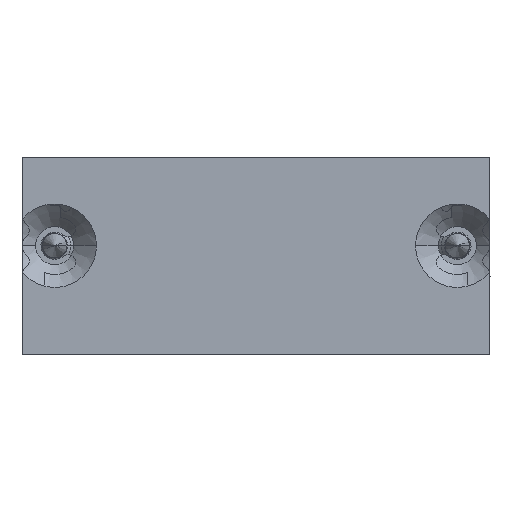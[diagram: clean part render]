
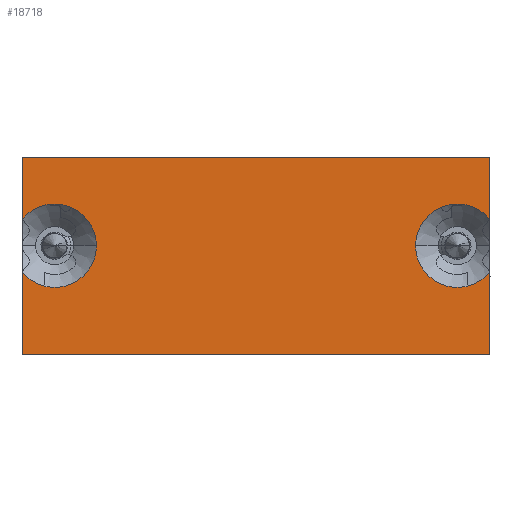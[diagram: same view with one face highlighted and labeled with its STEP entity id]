
A CAD part, front view. The second image highlights one B-rep face of the part: STEP entity #18718.
In plain terms, the highlighted planar face has unit normal (0, -1, 0).
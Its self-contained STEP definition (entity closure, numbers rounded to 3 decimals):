
#340 = DIRECTION ( 'NONE',  ( 0., 1., 0. ) ) ;
#528 = ORIENTED_EDGE ( 'NONE', *, *, #11419, .T. ) ;
#580 = CARTESIAN_POINT ( 'NONE',  ( -146.399, -224.854, 12.941 ) ) ;
#892 = CARTESIAN_POINT ( 'NONE',  ( -161.743, -224.854, -8.877 ) ) ;
#906 = CARTESIAN_POINT ( 'NONE',  ( -161.743, -224.854, 0. ) ) ;
#1262 = LINE ( 'NONE', #19495, #1821 ) ;
#1682 = EDGE_CURVE ( 'NONE', #14695, #20392, #23093, .T. ) ;
#1799 = VERTEX_POINT ( 'NONE', #15313 ) ;
#1821 = VECTOR ( 'NONE', #21276, 1000. ) ;
#1903 = DIRECTION ( 'NONE',  ( -1., 0., 0. ) ) ;
#2104 = VECTOR ( 'NONE', #9624, 1000. ) ;
#2145 = CARTESIAN_POINT ( 'NONE',  ( -176.946, -224.854, 12.8 ) ) ;
#2321 = CARTESIAN_POINT ( 'NONE',  ( -177.146, -224.854, 8.902 ) ) ;
#2370 = VECTOR ( 'NONE', #13820, 1000. ) ;
#2650 = ORIENTED_EDGE ( 'NONE', *, *, #7761, .F. ) ;
#2733 = LINE ( 'NONE', #4640, #2370 ) ;
#2944 = CARTESIAN_POINT ( 'NONE',  ( -151.235, -224.854, 7.18 ) ) ;
#3394 = ORIENTED_EDGE ( 'NONE', *, *, #14165, .F. ) ;
#3615 = VECTOR ( 'NONE', #14203, 1000. ) ;
#3781 = CIRCLE ( 'NONE', #20880, 0.2 ) ;
#3915 = DIRECTION ( 'NONE',  ( 0., 1., 0. ) ) ;
#4023 = EDGE_CURVE ( 'NONE', #19803, #18035, #1262, .T. ) ;
#4094 = ORIENTED_EDGE ( 'NONE', *, *, #8948, .F. ) ;
#4469 = CARTESIAN_POINT ( 'NONE',  ( -176.946, -224.854, 13. ) ) ;
#4640 = CARTESIAN_POINT ( 'NONE',  ( -146.341, -224.854, -1.189 ) ) ;
#4713 = CARTESIAN_POINT ( 'NONE',  ( -146.341, -224.854, 5.458 ) ) ;
#4947 = DIRECTION ( 'NONE',  ( 0., 0., 1. ) ) ;
#5165 = CARTESIAN_POINT ( 'NONE',  ( -148.485, -224.854, 7.18 ) ) ;
#5204 = ORIENTED_EDGE ( 'NONE', *, *, #4023, .F. ) ;
#5362 = CIRCLE ( 'NONE', #19054, 2.75 ) ;
#5742 = AXIS2_PLACEMENT_3D ( 'NONE', #892, #8648, #15918 ) ;
#5748 = VERTEX_POINT ( 'NONE', #580 ) ;
#5856 = DIRECTION ( 'NONE',  ( -1., 0., 0. ) ) ;
#5962 = DIRECTION ( 'NONE',  ( 0., 0., 1. ) ) ;
#6037 = VERTEX_POINT ( 'NONE', #2944 ) ;
#6129 = AXIS2_PLACEMENT_3D ( 'NONE', #14853, #3915, #11661 ) ;
#6132 = CIRCLE ( 'NONE', #8021, 2.75 ) ;
#6551 = EDGE_CURVE ( 'NONE', #14695, #18786, #6132, .T. ) ;
#6553 = ORIENTED_EDGE ( 'NONE', *, *, #19547, .T. ) ;
#6652 = DIRECTION ( 'NONE',  ( 0., 1., 0. ) ) ;
#6700 = VERTEX_POINT ( 'NONE', #21903 ) ;
#6773 = DIRECTION ( 'NONE',  ( 0., 0., 1. ) ) ;
#7198 = ORIENTED_EDGE ( 'NONE', *, *, #16543, .F. ) ;
#7373 = EDGE_CURVE ( 'NONE', #20392, #10035, #10352, .T. ) ;
#7483 = LINE ( 'NONE', #9153, #2104 ) ;
#7742 = DIRECTION ( 'NONE',  ( 0., 1., 0. ) ) ;
#7761 = EDGE_CURVE ( 'NONE', #11714, #1799, #2733, .T. ) ;
#8021 = AXIS2_PLACEMENT_3D ( 'NONE', #15099, #340, #1903 ) ;
#8648 = DIRECTION ( 'NONE',  ( 0., -1., 0. ) ) ;
#8948 = EDGE_CURVE ( 'NONE', #12655, #6700, #7483, .T. ) ;
#9124 = EDGE_CURVE ( 'NONE', #6037, #6700, #23007, .T. ) ;
#9153 = CARTESIAN_POINT ( 'NONE',  ( -146.341, -224.854, -1.189 ) ) ;
#9230 = CARTESIAN_POINT ( 'NONE',  ( -172.252, -224.854, 7.18 ) ) ;
#9281 = DIRECTION ( 'NONE',  ( 0., 1., 0. ) ) ;
#9624 = DIRECTION ( 'NONE',  ( 0., 0., -1. ) ) ;
#9752 = DIRECTION ( 'NONE',  ( -1., 0., 0. ) ) ;
#10035 = VERTEX_POINT ( 'NONE', #18289 ) ;
#10352 = CIRCLE ( 'NONE', #13399, 0.2 ) ;
#10955 = DIRECTION ( 'NONE',  ( 0., 0., 1. ) ) ;
#11133 = ORIENTED_EDGE ( 'NONE', *, *, #12725, .F. ) ;
#11275 = VERTEX_POINT ( 'NONE', #11364 ) ;
#11364 = CARTESIAN_POINT ( 'NONE',  ( -177.146, -224.854, 0. ) ) ;
#11418 = CARTESIAN_POINT ( 'NONE',  ( -146.341, -224.854, 12.813 ) ) ;
#11419 = EDGE_CURVE ( 'NONE', #11714, #6037, #5362, .T. ) ;
#11661 = DIRECTION ( 'NONE',  ( 0., 0., 1. ) ) ;
#11709 = CIRCLE ( 'NONE', #12487, 0.2 ) ;
#11714 = VERTEX_POINT ( 'NONE', #4713 ) ;
#11985 = AXIS2_PLACEMENT_3D ( 'NONE', #17131, #6652, #20809 ) ;
#12487 = AXIS2_PLACEMENT_3D ( 'NONE', #16297, #9281, #5962 ) ;
#12655 = VERTEX_POINT ( 'NONE', #11418 ) ;
#12725 = EDGE_CURVE ( 'NONE', #5748, #12655, #23227, .T. ) ;
#13399 = AXIS2_PLACEMENT_3D ( 'NONE', #14003, #19563, #4947 ) ;
#13498 = EDGE_CURVE ( 'NONE', #1799, #11275, #17010, .T. ) ;
#13754 = CARTESIAN_POINT ( 'NONE',  ( -146.54, -224.854, 13. ) ) ;
#13820 = DIRECTION ( 'NONE',  ( 0., 0., -1. ) ) ;
#14003 = CARTESIAN_POINT ( 'NONE',  ( -176.946, -224.854, 12.8 ) ) ;
#14016 = EDGE_LOOP ( 'NONE', ( #528, #17810, #4094, #11133, #7198, #5204, #3394, #14192, #16126, #14555, #6553, #19656, #15838, #2650 ) ) ;
#14165 = EDGE_CURVE ( 'NONE', #10035, #19803, #3781, .T. ) ;
#14192 = ORIENTED_EDGE ( 'NONE', *, *, #7373, .F. ) ;
#14203 = DIRECTION ( 'NONE',  ( 0., 0., 1. ) ) ;
#14425 = CARTESIAN_POINT ( 'NONE',  ( -177.146, -224.854, 12.996 ) ) ;
#14555 = ORIENTED_EDGE ( 'NONE', *, *, #6551, .T. ) ;
#14695 = VERTEX_POINT ( 'NONE', #2321 ) ;
#14853 = CARTESIAN_POINT ( 'NONE',  ( -146.54, -224.854, 12.8 ) ) ;
#15099 = CARTESIAN_POINT ( 'NONE',  ( -175.002, -224.854, 7.18 ) ) ;
#15313 = CARTESIAN_POINT ( 'NONE',  ( -146.341, -224.854, 0. ) ) ;
#15679 = FACE_OUTER_BOUND ( 'NONE', #14016, .T. ) ;
#15838 = ORIENTED_EDGE ( 'NONE', *, *, #13498, .F. ) ;
#15918 = DIRECTION ( 'NONE',  ( 1., 0., 0. ) ) ;
#16126 = ORIENTED_EDGE ( 'NONE', *, *, #1682, .F. ) ;
#16202 = LINE ( 'NONE', #14425, #3615 ) ;
#16297 = CARTESIAN_POINT ( 'NONE',  ( -146.54, -224.854, 12.8 ) ) ;
#16543 = EDGE_CURVE ( 'NONE', #18035, #5748, #11709, .T. ) ;
#16666 = DIRECTION ( 'NONE',  ( 0., 1., 0. ) ) ;
#16669 = CARTESIAN_POINT ( 'NONE',  ( -177.146, -224.854, 5.458 ) ) ;
#16904 = CARTESIAN_POINT ( 'NONE',  ( -175.002, -224.854, 7.18 ) ) ;
#17010 = LINE ( 'NONE', #906, #22138 ) ;
#17131 = CARTESIAN_POINT ( 'NONE',  ( -148.485, -224.854, 7.18 ) ) ;
#17195 = CIRCLE ( 'NONE', #22498, 2.75 ) ;
#17810 = ORIENTED_EDGE ( 'NONE', *, *, #9124, .T. ) ;
#18035 = VERTEX_POINT ( 'NONE', #13754 ) ;
#18234 = DIRECTION ( 'NONE',  ( -1., 0., 0. ) ) ;
#18289 = CARTESIAN_POINT ( 'NONE',  ( -177.088, -224.854, 12.941 ) ) ;
#18718 = ADVANCED_FACE ( 'NONE', ( #15679 ), #21387, .T. ) ;
#18786 = VERTEX_POINT ( 'NONE', #9230 ) ;
#19054 = AXIS2_PLACEMENT_3D ( 'NONE', #5165, #7742, #5856 ) ;
#19495 = CARTESIAN_POINT ( 'NONE',  ( -161.743, -224.854, 13. ) ) ;
#19547 = EDGE_CURVE ( 'NONE', #18786, #20523, #17195, .T. ) ;
#19563 = DIRECTION ( 'NONE',  ( 0., 1., 0. ) ) ;
#19577 = VECTOR ( 'NONE', #6773, 1000. ) ;
#19656 = ORIENTED_EDGE ( 'NONE', *, *, #22301, .F. ) ;
#19803 = VERTEX_POINT ( 'NONE', #4469 ) ;
#20392 = VERTEX_POINT ( 'NONE', #21091 ) ;
#20523 = VERTEX_POINT ( 'NONE', #16669 ) ;
#20809 = DIRECTION ( 'NONE',  ( -1., 0., 0. ) ) ;
#20880 = AXIS2_PLACEMENT_3D ( 'NONE', #2145, #22011, #10955 ) ;
#21091 = CARTESIAN_POINT ( 'NONE',  ( -177.146, -224.854, 12.8 ) ) ;
#21276 = DIRECTION ( 'NONE',  ( 1., 0., 0. ) ) ;
#21387 = PLANE ( 'NONE',  #5742 ) ;
#21903 = CARTESIAN_POINT ( 'NONE',  ( -146.341, -224.854, 8.902 ) ) ;
#22011 = DIRECTION ( 'NONE',  ( 0., 1., 0. ) ) ;
#22138 = VECTOR ( 'NONE', #9752, 1000. ) ;
#22301 = EDGE_CURVE ( 'NONE', #11275, #20523, #16202, .T. ) ;
#22498 = AXIS2_PLACEMENT_3D ( 'NONE', #16904, #16666, #18234 ) ;
#23007 = CIRCLE ( 'NONE', #11985, 2.75 ) ;
#23093 = LINE ( 'NONE', #23334, #19577 ) ;
#23227 = CIRCLE ( 'NONE', #6129, 0.2 ) ;
#23334 = CARTESIAN_POINT ( 'NONE',  ( -177.146, -224.854, 12.996 ) ) ;
